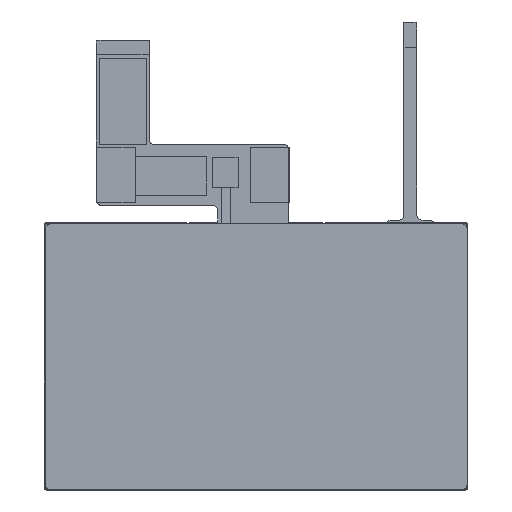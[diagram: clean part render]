
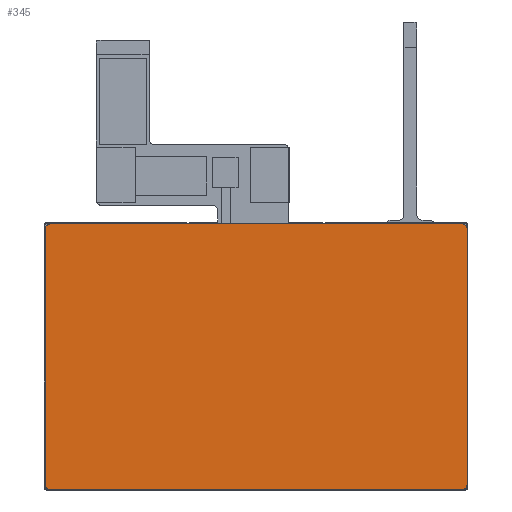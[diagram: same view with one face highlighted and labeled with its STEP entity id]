
A CAD part, front view. The second image highlights one B-rep face of the part: STEP entity #345.
In plain terms, the highlighted planar face has unit normal (0, -1, 0).
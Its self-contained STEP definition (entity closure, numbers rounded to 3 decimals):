
#226 = CARTESIAN_POINT ( 'NONE',  ( 162.75, 0., -73.45 ) ) ;
#265 = VERTEX_POINT ( 'NONE', #7536 ) ;
#345 = ADVANCED_FACE ( 'NONE', ( #3905 ), #3315, .F. ) ;
#395 = CARTESIAN_POINT ( 'NONE',  ( 164.75, 0., -73.45 ) ) ;
#399 = VERTEX_POINT ( 'NONE', #1117 ) ;
#869 = AXIS2_PLACEMENT_3D ( 'NONE', #3949, #5292, #7080 ) ;
#903 = CARTESIAN_POINT ( 'NONE',  ( 162.75, 0., -71.45 ) ) ;
#935 = DIRECTION ( 'NONE',  ( 0., 0., 1. ) ) ;
#993 = ORIENTED_EDGE ( 'NONE', *, *, #8013, .F. ) ;
#1115 = VECTOR ( 'NONE', #6967, 1000. ) ;
#1117 = CARTESIAN_POINT ( 'NONE',  ( 2.45, 0., -174.75 ) ) ;
#1216 = ORIENTED_EDGE ( 'NONE', *, *, #2828, .F. ) ;
#1381 = VERTEX_POINT ( 'NONE', #395 ) ;
#1398 = AXIS2_PLACEMENT_3D ( 'NONE', #4449, #5688, #3798 ) ;
#1418 = EDGE_CURVE ( 'NONE', #265, #6240, #1662, .T. ) ;
#1445 = DIRECTION ( 'NONE',  ( -1., 0., 0. ) ) ;
#1561 = CARTESIAN_POINT ( 'NONE',  ( 2.45, 0., -73.45 ) ) ;
#1563 = EDGE_CURVE ( 'NONE', #5683, #3996, #2988, .T. ) ;
#1565 = VERTEX_POINT ( 'NONE', #903 ) ;
#1627 = AXIS2_PLACEMENT_3D ( 'NONE', #2783, #5967, #6009 ) ;
#1653 = VECTOR ( 'NONE', #1445, 1000. ) ;
#1662 = CIRCLE ( 'NONE', #5089, 2. ) ;
#2025 = AXIS2_PLACEMENT_3D ( 'NONE', #226, #7816, #2204 ) ;
#2073 = ORIENTED_EDGE ( 'NONE', *, *, #3217, .F. ) ;
#2124 = ORIENTED_EDGE ( 'NONE', *, *, #2464, .F. ) ;
#2204 = DIRECTION ( 'NONE',  ( 0., 0., 1. ) ) ;
#2464 = EDGE_CURVE ( 'NONE', #1565, #1381, #4923, .T. ) ;
#2495 = CARTESIAN_POINT ( 'NONE',  ( 82.6, 0., -71.45 ) ) ;
#2522 = CARTESIAN_POINT ( 'NONE',  ( 164.75, 0., -172.75 ) ) ;
#2647 = DIRECTION ( 'NONE',  ( 0., 0., 1. ) ) ;
#2684 = LINE ( 'NONE', #7800, #6795 ) ;
#2783 = CARTESIAN_POINT ( 'NONE',  ( 2.45, 0., -172.75 ) ) ;
#2828 = EDGE_CURVE ( 'NONE', #399, #6720, #5455, .T. ) ;
#2988 = CIRCLE ( 'NONE', #1398, 2. ) ;
#3120 = EDGE_CURVE ( 'NONE', #6720, #265, #6343, .T. ) ;
#3217 = EDGE_CURVE ( 'NONE', #1381, #5683, #2684, .T. ) ;
#3315 = PLANE ( 'NONE',  #869 ) ;
#3321 = EDGE_CURVE ( 'NONE', #6240, #1565, #4432, .T. ) ;
#3387 = CARTESIAN_POINT ( 'NONE',  ( 162.75, 0., -174.75 ) ) ;
#3700 = ORIENTED_EDGE ( 'NONE', *, *, #1563, .F. ) ;
#3798 = DIRECTION ( 'NONE',  ( 0., 0., 1. ) ) ;
#3905 = FACE_OUTER_BOUND ( 'NONE', #8160, .T. ) ;
#3949 = CARTESIAN_POINT ( 'NONE',  ( 82.6, 0., -111.95 ) ) ;
#3996 = VERTEX_POINT ( 'NONE', #3387 ) ;
#4025 = CARTESIAN_POINT ( 'NONE',  ( 0.45, 0., -172.75 ) ) ;
#4085 = DIRECTION ( 'NONE',  ( 0., 1., 0. ) ) ;
#4423 = ORIENTED_EDGE ( 'NONE', *, *, #3120, .F. ) ;
#4432 = LINE ( 'NONE', #2495, #1115 ) ;
#4449 = CARTESIAN_POINT ( 'NONE',  ( 162.75, 0., -172.75 ) ) ;
#4521 = ORIENTED_EDGE ( 'NONE', *, *, #3321, .F. ) ;
#4806 = CARTESIAN_POINT ( 'NONE',  ( 2.45, 0., -71.45 ) ) ;
#4923 = CIRCLE ( 'NONE', #2025, 2. ) ;
#5089 = AXIS2_PLACEMENT_3D ( 'NONE', #1561, #4085, #935 ) ;
#5172 = ORIENTED_EDGE ( 'NONE', *, *, #1418, .F. ) ;
#5284 = DIRECTION ( 'NONE',  ( 0., 0., -1. ) ) ;
#5292 = DIRECTION ( 'NONE',  ( 0., 1., 0. ) ) ;
#5455 = CIRCLE ( 'NONE', #1627, 2. ) ;
#5683 = VERTEX_POINT ( 'NONE', #2522 ) ;
#5688 = DIRECTION ( 'NONE',  ( 0., 1., 0. ) ) ;
#5792 = CARTESIAN_POINT ( 'NONE',  ( 0.45, 0., -111.95 ) ) ;
#5967 = DIRECTION ( 'NONE',  ( 0., 1., 0. ) ) ;
#5988 = LINE ( 'NONE', #7837, #1653 ) ;
#6009 = DIRECTION ( 'NONE',  ( 0., 0., 1. ) ) ;
#6240 = VERTEX_POINT ( 'NONE', #4806 ) ;
#6343 = LINE ( 'NONE', #5792, #7312 ) ;
#6720 = VERTEX_POINT ( 'NONE', #4025 ) ;
#6795 = VECTOR ( 'NONE', #5284, 1000. ) ;
#6967 = DIRECTION ( 'NONE',  ( 1., 0., 0. ) ) ;
#7080 = DIRECTION ( 'NONE',  ( 0., 0., 1. ) ) ;
#7312 = VECTOR ( 'NONE', #2647, 1000. ) ;
#7536 = CARTESIAN_POINT ( 'NONE',  ( 0.45, 0., -73.45 ) ) ;
#7800 = CARTESIAN_POINT ( 'NONE',  ( 164.75, 0., -111.95 ) ) ;
#7816 = DIRECTION ( 'NONE',  ( 0., 1., 0. ) ) ;
#7837 = CARTESIAN_POINT ( 'NONE',  ( 82.6, 0., -174.75 ) ) ;
#8013 = EDGE_CURVE ( 'NONE', #3996, #399, #5988, .T. ) ;
#8160 = EDGE_LOOP ( 'NONE', ( #4423, #1216, #993, #3700, #2073, #2124, #4521, #5172 ) ) ;
